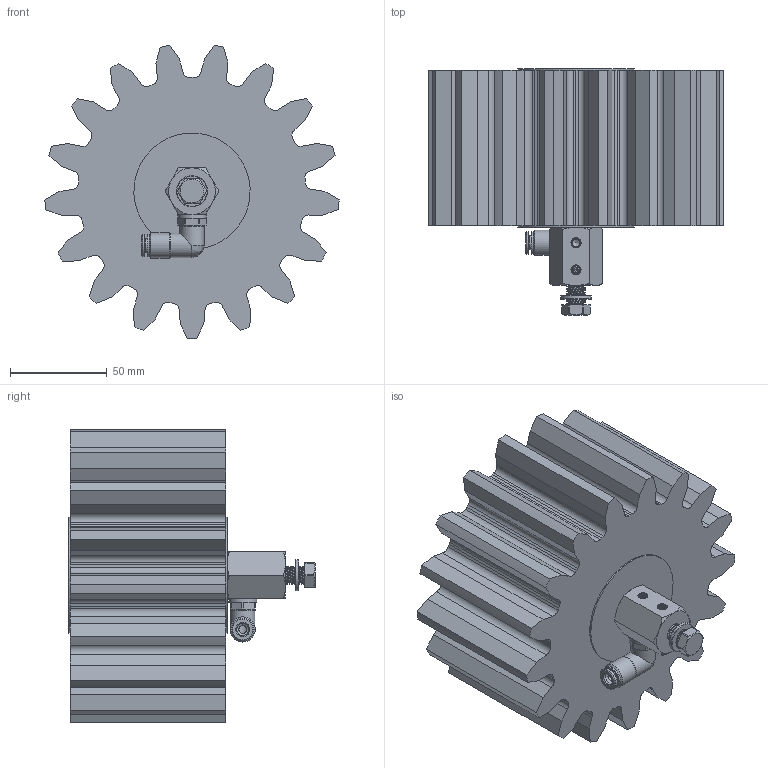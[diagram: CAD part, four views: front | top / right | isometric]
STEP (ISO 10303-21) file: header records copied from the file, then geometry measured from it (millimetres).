
FILE_DESCRIPTION (( 'STEP AP214' ), '1' );
FILE_NAME ('012_13_08_80_17BZ.STEP', '2026-04-08T10:23:28', ( '' ), ( '' ), 'SwSTEP 2.0', 'SolidWorks 2022', '' );
FILE_SCHEMA (( 'AUTOMOTIVE_DESIGN' ));
Length unit declared in the file: millimetre
Products named in the file (13): RH202242; 12012_06_01_Scheibe-CRS-VA_60.SLDASM; DR6-C_HDX_25.07.16_1; Scheibe_hinten_winklige Achse_groß; H202242_HDS022_6_M10X1_08.05.17(1); 012_13b_02_winklige_Achse_M10_1; U_Scheibe_8,4; Schmierzahnrad_08_80_17G; Schraube_M8_20; RIVOLUZIONE_0_2; 012_06_Senkschraube; 012_13_08_80_17BZ; OR 7.2X1.9_1
Assembly tree (12 placements, depth 3):
  012_13_08_80_17BZ
    012_13b_02_winklige_Achse_M10_1
    Schraube_M8_20
    U_Scheibe_8,4
    H202242_HDS022_6_M10X1_08.05.17(1)
      OR 7.2X1.9_1
      RH202242
      DR6-C_HDX_25.07.16_1
      RIVOLUZIONE_0_2
    12012_06_01_Scheibe-CRS-VA_60.SLDASM
    Scheibe_hinten_winklige Achse_groß
    012_06_Senkschraube
    Schmierzahnrad_08_80_17G
Bounding box: 151.72 x 126.9 x 151.12 mm (x, y, z)
Volume: 1154976.4 mm3; surface area: 117225.8 mm2
Topology: 11 solids, 11 shells, 729 faces, 1985 edges, 1315 vertices
Faces by surface type: plane 379, bspline 184, cylinder 106, cone 57, torus 3
Full cylindrical faces by diameter (mm): 4 x3, 6 x1, 6.2 x1, 6.3 x1, 6.5 x1, 6.6 x1, 7.2 x1, 8.4 x1, 8.5 x1, 9 x10, 9.9 x1, 10 x2, 10.1 x2, 10.3 x1, 11.5 x1, 11.7 x1, 12.5 x2, 13 x1, 14.5 x1, 16 x1, 60 x2
Entity records: 48167 total; most frequent: CARTESIAN_POINT 30642, ORIENTED_EDGE 3668, DIRECTION 2683, EDGE_CURVE 1834, VERTEX_POINT 1249, LINE 1079, VECTOR 1079, EDGE_LOOP 851
